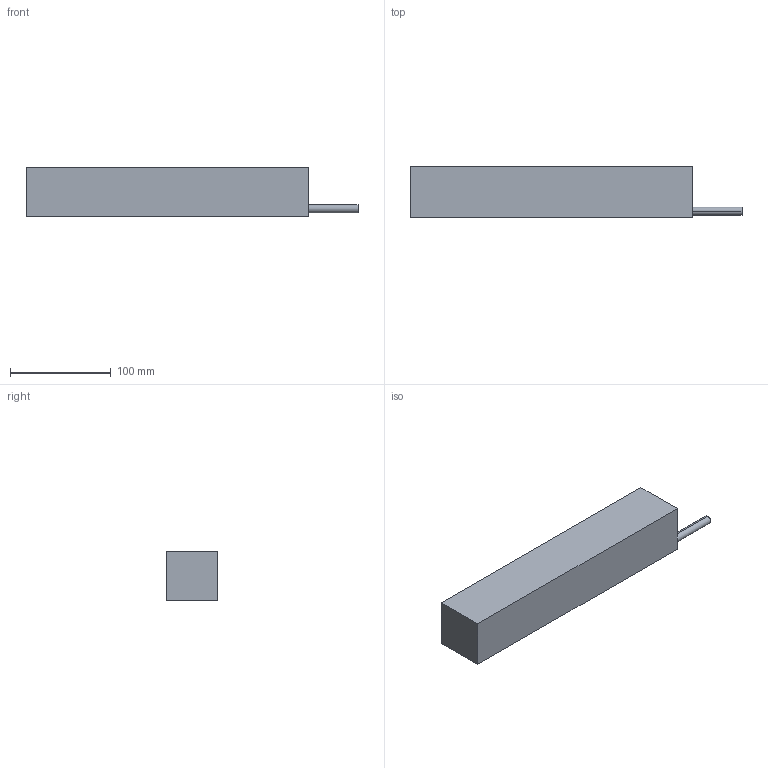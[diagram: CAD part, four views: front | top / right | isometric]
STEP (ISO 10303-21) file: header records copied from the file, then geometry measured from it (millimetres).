
FILE_DESCRIPTION (( 'STEP AP214' ), '1' );
FILE_NAME ('FLM-51-280.STEP', '2022-05-12T08:00:17', ( 'Microsoft' ), ( 'Microsoft' ), 'SwSTEP 2.0', 'SolidWorks 2016', '' );
FILE_SCHEMA (( 'AUTOMOTIVE_DESIGN' ));
Length unit declared in the file: millimetre
Products named in the file (1): FLM-51-280
Bounding box: 329.3 x 51 x 49.3 mm (x, y, z)
Volume: 705005.6 mm3; surface area: 63783.5 mm2
Topology: 1 solids, 1 shells, 81 faces, 198 edges, 102 vertices
Faces by surface type: cylinder 38, cone 36, plane 7
Entity records: 2538 total; most frequent: DIRECTION 402, CARTESIAN_POINT 346, ORIENTED_EDGE 324, EDGE_CURVE 162, AXIS2_PLACEMENT_3D 158, VERTEX_POINT 102, EDGE_LOOP 100, LINE 86
